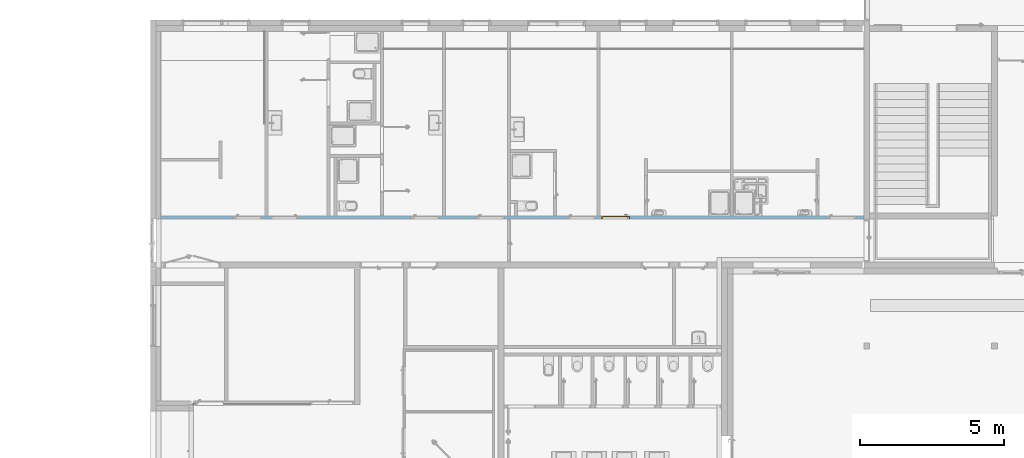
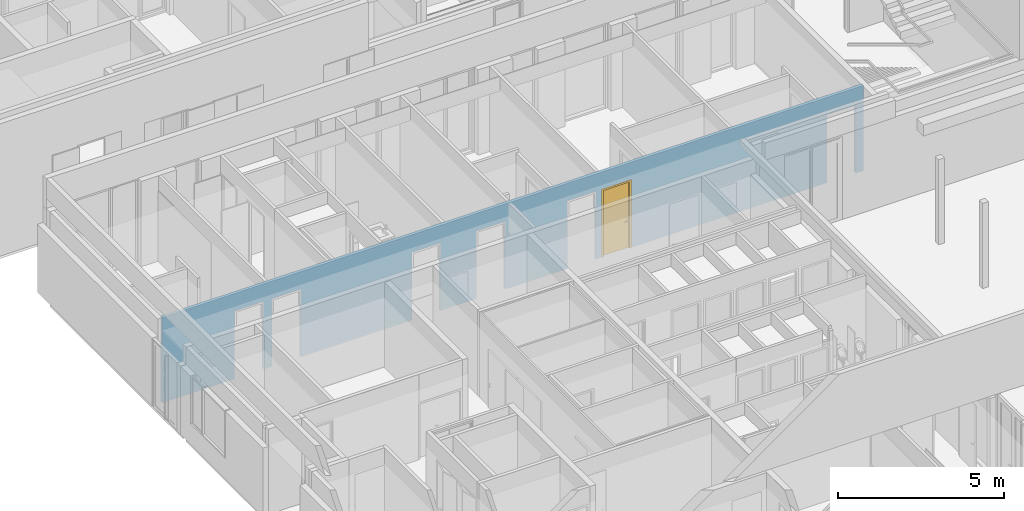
# One storey, part 105 of 240: 1 door, 7 openings, plus 1 element that does not belong to this part.
"""IFC2X3 building model written with IfcOpenShell, lengths in centimetres."""

from ifc_helpers import new_model, entity, si_unit, converted_unit, derived_unit, direction, frame, frame_2d, origin, place, context, subcontext, project, spatial, rectangle, extrude, faceted_brep, source, transform, mapped, material, material_list, layer, layer_set, layer_usage, type_object, type_shapes, element, fill, save


model = new_model("IFC2X3")

# Units and contexts
model_context = context("Model", 3, precision=0.001, world=origin(), true_north=direction((6.12303176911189e-17, 1.0)))
body_context = subcontext(model_context, "Body", "Model", "MODEL_VIEW")
ifc_project = project(units=[si_unit("LENGTHUNIT", "METRE", prefix="CENTI"), si_unit("AREAUNIT", "SQUARE_METRE"), si_unit("VOLUMEUNIT", "CUBIC_METRE"), converted_unit("PLANEANGLEUNIT", "DEGREE", entity("IfcRatioMeasure", 0.0174532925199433), si_unit("PLANEANGLEUNIT", "RADIAN"), dimensions=[0, 0, 0, 0, 0, 0, 0]), si_unit("MASSUNIT", "GRAM", prefix="KILO"), derived_unit("MASSDENSITYUNIT", [(si_unit("MASSUNIT", "GRAM", prefix="KILO"), 1), (si_unit("LENGTHUNIT", "METRE"), -3)]), si_unit("TIMEUNIT", "SECOND"), si_unit("FREQUENCYUNIT", "HERTZ"), si_unit("THERMODYNAMICTEMPERATUREUNIT", "DEGREE_CELSIUS"), derived_unit("THERMALTRANSMITTANCEUNIT", [(si_unit("MASSUNIT", "GRAM", prefix="KILO"), 1), (si_unit("THERMODYNAMICTEMPERATUREUNIT", "KELVIN"), -1), (si_unit("TIMEUNIT", "SECOND"), -3)]), derived_unit("VOLUMETRICFLOWRATEUNIT", [(si_unit("LENGTHUNIT", "METRE"), 3), (si_unit("TIMEUNIT", "SECOND"), -1)]), si_unit("ELECTRICCURRENTUNIT", "AMPERE"), si_unit("ELECTRICVOLTAGEUNIT", "VOLT"), si_unit("POWERUNIT", "WATT"), si_unit("FORCEUNIT", "NEWTON", prefix="KILO"), si_unit("ILLUMINANCEUNIT", "LUX"), si_unit("LUMINOUSFLUXUNIT", "LUMEN"), si_unit("LUMINOUSINTENSITYUNIT", "CANDELA"), derived_unit("USERDEFINED", [(si_unit("MASSUNIT", "GRAM", prefix="KILO"), -1), (si_unit("LENGTHUNIT", "METRE"), -2), (si_unit("TIMEUNIT", "SECOND"), 3), (si_unit("LUMINOUSFLUXUNIT", "LUMEN"), 1)]), derived_unit("LINEARVELOCITYUNIT", [(si_unit("LENGTHUNIT", "METRE"), 1), (si_unit("TIMEUNIT", "SECOND"), -1)]), si_unit("PRESSUREUNIT", "PASCAL"), derived_unit("USERDEFINED", [(si_unit("LENGTHUNIT", "METRE"), -2), (si_unit("MASSUNIT", "GRAM", prefix="KILO"), 1), (si_unit("TIMEUNIT", "SECOND"), -2)])], contexts=[model_context])

# Site, building, storey
site_placement = place(None, frame((-2781.94577612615, 7442.24238424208, 0.0)))
site = spatial("IfcSite", under=ifc_project, at=site_placement, Name="Default", CompositionType="ELEMENT")
building_placement = place(site_placement, origin())
building = spatial("IfcBuilding", under=site, at=building_placement, CompositionType="ELEMENT")
storey_placement = place(building_placement, origin())
storey = spatial("IfcBuildingStorey", under=building, at=storey_placement, Name="N00 - COO", CompositionType="ELEMENT", Elevation=0.0)

# Wall, openings, door
ifc_material_1 = material(Name="01 - Enduit/Plâtre")
ifc_layer_1 = layer(ifc_material_1, 1.3)
ifc_material_2 = material(Name="00 - Isolant")
ifc_layer_2 = layer(ifc_material_2, 7.4)
ifc_layer_3 = layer(ifc_material_1, 1.3)
ifc_layer_set = layer_set([ifc_layer_1, ifc_layer_2, ifc_layer_3], Name="Mur de base:06 - cloisons - Ba13 10cm")
ifc_layer_usage = layer_usage(ifc_layer_set, "AXIS2", "NEGATIVE", 5.0)
wall_type = type_object("IfcWallType", Name="Mur de base:06 - cloisons - Ba13 10cm", PredefinedType="STANDARD", material=ifc_layer_set)
wall_placement = place(building_placement, frame((-10866.3130476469, -1755.0, 0.0)))
wall = element("IfcWallStandardCase", 1, at=wall_placement, inside=storey, type_object=wall_type, material=ifc_layer_usage, Name="Mur de base:06 - cloisons - Ba13 10cm", ObjectType="Mur de base:06 - cloisons - Ba13 10cm", context=body_context, shape_type="SweptSolid", body=[
    extrude(rectangle(XDim=2435.48317594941, YDim=9.99999999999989, at=frame_2d((1217.7415879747, 3.37507799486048e-14), x_axis=(-1.0, 0.0))), origin(), (0.0, 0.0, 1.0), 313.0),
])
opening_1_placement = place(wall_placement, frame((2309.31316997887, -5.0, 0.0)))
element("IfcOpeningElement", 2, at=opening_1_placement, cuts=wall, Name="Int. Simple:PP simple (0.93m x 2.50m):1", ObjectType="Opening", context=body_context, shape_type="SweptSolid", body=[
    extrude(rectangle(XDim=248.500000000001, YDim=99.9999999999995, at=frame_2d((124.250000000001, 49.9999999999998), x_axis=(1.0, 0.0))), frame((0.0, 0.0, 0.0), z_axis=(0.0, 1.0, 0.0), x_axis=(0.0, 0.0, 1.0)), (0.0, 0.0, 1.0), 10.0),
])
opening_2_placement = place(wall_placement, frame((1527.31316997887, -5.0, 0.0)))
opening_2 = element("IfcOpeningElement", 3, at=opening_2_placement, cuts=wall, Name="Int. Simple:PP simple (0.93m x 2.50m):1", ObjectType="Opening", context=body_context, shape_type="SweptSolid", body=[
    extrude(rectangle(XDim=248.500000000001, YDim=99.9999999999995, at=frame_2d((124.250000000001, 50.0), x_axis=(1.0, 0.0))), frame((0.0, 0.0, 0.0), z_axis=(0.0, 1.0, 0.0), x_axis=(0.0, 0.0, 1.0)), (0.0, 0.0, 1.0), 10.0),
])
opening_3_placement = place(wall_placement, frame((1406.81316997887, -5.0, 0.0)))
element("IfcOpeningElement", 4, at=opening_3_placement, cuts=wall, Name="Int. Simple:PP simple (0.93m x 2.50m):1", ObjectType="Opening", context=body_context, shape_type="SweptSolid", body=[
    extrude(rectangle(XDim=248.500000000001, YDim=99.9999999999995, at=frame_2d((124.250000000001, 49.9999999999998), x_axis=(1.0, 0.0))), frame((0.0, 0.0, 0.0), z_axis=(0.0, 1.0, 0.0), x_axis=(0.0, 0.0, 1.0)), (0.0, 0.0, 1.0), 10.0),
])
opening_4_placement = place(wall_placement, frame((1091.81316997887, -5.0, 0.0)))
element("IfcOpeningElement", 5, at=opening_4_placement, cuts=wall, Name="Int. Simple:PP simple (0.93m x 2.50m):1", ObjectType="Opening", context=body_context, shape_type="SweptSolid", body=[
    extrude(rectangle(XDim=248.500000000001, YDim=99.9999999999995, at=frame_2d((124.250000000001, 49.9999999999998), x_axis=(1.0, 0.0))), frame((0.0, 0.0, 0.0), z_axis=(0.0, 1.0, 0.0), x_axis=(0.0, 0.0, 1.0)), (0.0, 0.0, 1.0), 10.0),
])
opening_5_placement = place(wall_placement, frame((866.813169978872, -5.0, 0.0)))
element("IfcOpeningElement", 6, at=opening_5_placement, cuts=wall, Name="Int. Simple:PP simple (0.93m x 2.50m):1", ObjectType="Opening", context=body_context, shape_type="SweptSolid", body=[
    extrude(rectangle(XDim=248.500000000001, YDim=99.9999999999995, at=frame_2d((124.250000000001, 49.9999999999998), x_axis=(1.0, 0.0))), frame((0.0, 0.0, 0.0), z_axis=(0.0, 1.0, 0.0), x_axis=(0.0, 0.0, 1.0)), (0.0, 0.0, 1.0), 10.0),
])
opening_6_placement = place(wall_placement, frame((381.813169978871, -5.0, 0.0)))
element("IfcOpeningElement", 7, at=opening_6_placement, cuts=wall, Name="Int. Simple:PP simple (0.93m x 2.50m):1", ObjectType="Opening", context=body_context, shape_type="SweptSolid", body=[
    extrude(rectangle(XDim=248.500000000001, YDim=99.9999999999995, at=frame_2d((124.250000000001, 50.0), x_axis=(1.0, 0.0))), frame((0.0, 0.0, 0.0), z_axis=(0.0, 1.0, 0.0), x_axis=(0.0, 0.0, 1.0)), (0.0, 0.0, 1.0), 10.0),
])
opening_7_placement = place(wall_placement, frame((251.813169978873, -5.0, 0.0)))
element("IfcOpeningElement", 8, at=opening_7_placement, cuts=wall, Name="Int. Simple:PP simple (0.93m x 2.50m):1", ObjectType="Opening", context=body_context, shape_type="SweptSolid", body=[
    extrude(rectangle(XDim=248.500000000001, YDim=99.9999999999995, at=frame_2d((124.250000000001, 49.9999999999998), x_axis=(1.0, 0.0))), frame((0.0, 0.0, 0.0), z_axis=(0.0, 1.0, 0.0), x_axis=(0.0, 0.0, 1.0)), (0.0, 0.0, 1.0), 10.0),
])
ifc_material_3 = material(Name="Finition Peinture - Blanc satiné")
ifc_material_4 = material(Name="Bois - Panneau de porte")
ifc_material_5 = material(Name="Bois - Cadre de porte")
ifc_material_list_1 = material_list([ifc_material_3, ifc_material_4, ifc_material_5])
ifc_material_list_2 = material_list([ifc_material_3, ifc_material_4, ifc_material_5])
door_style = type_object("IfcDoorStyle", Name="PP simple (0.93m x 2.50m)", ConstructionType="NOTDEFINED", OperationType="SINGLE_SWING_LEFT", ParameterTakesPrecedence=False, Sizeable=False, material=ifc_material_list_2)
shared_shape = source(origin(), body_context, "Body", "Brep", [
    faceted_brep([(10.5352761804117, -0.500000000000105, 86.6003983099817), (11.5000000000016, -0.500000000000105, 87.0), (11.5000000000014, -0.500000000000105, 108.0), (10.5352761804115, -0.500000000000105, 108.399601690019), (9.50000000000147, -0.500000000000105, 108.535898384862), (8.46472381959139, -0.500000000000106, 108.399601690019), (7.50000000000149, -0.500000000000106, 108.0), (7.50000000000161, -0.500000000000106, 87.0), (8.46472381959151, -0.500000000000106, 86.6003983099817), (9.50000000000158, -0.500000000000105, 86.464101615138), (10.5352761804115, 0.0, 108.399601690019), (11.5000000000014, 0.0, 108.0), (11.5000000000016, 0.0, 87.0), (10.5352761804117, 0.0, 86.6003983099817), (9.50000000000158, 0.0, 86.464101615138), (8.46472381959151, 0.0, 86.6003983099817), (7.50000000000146, 0.0, 87.0), (7.50000000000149, 0.0, 108.0), (8.46472381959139, 0.0, 108.399601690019), (9.50000000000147, 0.0, 108.535898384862)], [[[0, 1, 2, 3, 4, 5, 6, 7, 8, 9]], [[10, 11, 12, 13, 14, 15, 16, 17, 18, 19]], [[16, 15, 8, 7]], [[8, 15, 14, 9]], [[14, 13, 0, 9]], [[13, 12, 1, 0]], [[2, 1, 12, 11]], [[11, 10, 3, 2]], [[3, 10, 19, 4]], [[19, 18, 5, 4]], [[18, 17, 6, 5]], [[7, 6, 17, 16]]]),
    faceted_brep([(10.5352761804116, 4.0, 86.6003983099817), (11.5000000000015, 4.0, 87.0), (11.5000000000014, 4.0, 108.0), (10.5352761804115, 4.0, 108.399601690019), (9.50000000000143, 4.0, 108.535898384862), (8.46472381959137, 4.0, 108.399601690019), (7.50000000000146, 4.0, 108.0), (7.50000000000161, 4.0, 87.0), (8.46472381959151, 4.0, 86.6003983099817), (9.50000000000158, 4.0, 86.464101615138), (10.5352761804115, 4.49999999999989, 108.399601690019), (11.5000000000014, 4.49999999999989, 108.0), (11.5000000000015, 4.49999999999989, 87.0), (10.5352761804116, 4.49999999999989, 86.6003983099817), (9.50000000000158, 4.49999999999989, 86.464101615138), (8.46472381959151, 4.49999999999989, 86.6003983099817), (7.50000000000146, 4.49999999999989, 87.0), (7.50000000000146, 4.49999999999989, 108.0), (8.46472381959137, 4.49999999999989, 108.399601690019), (9.50000000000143, 4.49999999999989, 108.535898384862)], [[[0, 1, 2, 3, 4, 5, 6, 7, 8, 9]], [[10, 11, 12, 13, 14, 15, 16, 17, 18, 19]], [[11, 10, 3, 2]], [[3, 10, 19, 4]], [[19, 18, 5, 4]], [[18, 17, 6, 5]], [[7, 6, 17, 16]], [[16, 15, 8, 7]], [[8, 15, 14, 9]], [[14, 13, 0, 9]], [[13, 12, 1, 0]], [[2, 1, 12, 11]]]),
    faceted_brep([(9.29747013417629, -0.500000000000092, 100.778044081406), (9.70252986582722, -0.50000000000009, 100.778044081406), (10.1000000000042, -0.500000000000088, 100.699999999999), (10.1000000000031, -0.500000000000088, 99.3000000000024), (9.7025298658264, -0.50000000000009, 99.2219559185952), (9.29747013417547, -0.500000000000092, 99.221955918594), (8.8999999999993, -0.500000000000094, 99.2999999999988), (8.89999999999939, -0.500000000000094, 100.7), (8.89999999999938, -3.26509507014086, 100.7), (9.29747013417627, -3.10045754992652, 100.778044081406), (10.9023585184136, -4.70534593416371, 100.778044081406), (11.0701397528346, -4.30028620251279, 100.778044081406), (9.7025298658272, -2.93267631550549, 100.778044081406), (10.1000000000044, -2.76803879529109, 100.7), (10.1000000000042, -2.76803879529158, 99.3000000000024), (9.7025298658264, -2.93267631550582, 99.2219559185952), (11.0701397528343, -4.30028620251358, 99.2219559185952), (10.9023585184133, -4.70534593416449, 99.221955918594), (9.29747013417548, -3.10045754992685, 99.221955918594), (8.89999999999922, -3.26509507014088, 99.2999999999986), (10.7377209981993, -5.10281606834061, 100.7), (11.2347772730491, -3.90281606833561, 100.7), (11.2347772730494, -3.90281606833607, 99.3000000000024), (10.7377209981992, -5.10281606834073, 99.2999999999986), (19.5018640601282, -5.10281606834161, 99.2999999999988), (19.5018640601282, -4.70534593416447, 99.221955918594), (19.5018640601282, -4.30028620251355, 99.2219559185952), (19.5018640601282, -3.9028160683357, 99.3000000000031), (19.5018640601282, -3.90281606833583, 100.7), (19.5018640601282, -4.30028620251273, 100.778044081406), (19.5018640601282, -4.70534593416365, 100.778044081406), (19.5018640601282, -5.10281606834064, 100.699999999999), (14.7307697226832, -5.10281606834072, 100.7), (15.2860019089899, -4.5028160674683, 100.78786867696), (15.3683206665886, -3.9028160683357, 100.7), (15.3683206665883, -3.9028160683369, 99.3000000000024), (15.2860018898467, -4.50281607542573, 99.2121313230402), (14.7307700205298, -5.10281606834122, 99.2999999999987)], [[[0, 1, 2, 3, 4, 5, 6, 7]], [[8, 9, 0, 7]], [[9, 10, 11, 12, 1, 0]], [[12, 13, 2, 1]], [[3, 2, 13, 14]], [[14, 15, 4, 3]], [[15, 16, 17, 18, 5, 4]], [[18, 19, 6, 5]], [[7, 6, 19, 8]], [[20, 10, 9, 8]], [[11, 21, 13, 12]], [[14, 13, 21, 22]], [[22, 16, 15, 14]], [[17, 23, 19, 18]], [[8, 19, 23, 20]], [[24, 25, 26, 27, 28, 29, 30, 31]], [[32, 30, 33]], [[31, 30, 32]], [[10, 20, 32]], [[33, 34, 11]], [[21, 11, 34]], [[34, 29, 28]], [[30, 29, 33]], [[29, 34, 33]], [[10, 32, 33]], [[10, 33, 11]], [[22, 21, 34, 28, 27, 35]], [[35, 26, 36]], [[37, 36, 25]], [[22, 35, 16]], [[35, 27, 26]], [[24, 37, 25]], [[23, 17, 37]], [[37, 17, 36]], [[17, 16, 36]], [[16, 35, 36]], [[25, 36, 26]], [[20, 23, 37, 24, 31, 32]]]),
    faceted_brep([(9.29747013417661, 4.49999999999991, 100.778044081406), (8.89999999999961, 4.4999999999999, 100.7), (8.89999999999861, 4.4999999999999, 99.2999999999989), (9.29747013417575, 4.49999999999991, 99.221955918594), (9.70252986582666, 4.49999999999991, 99.2219559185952), (10.1000000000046, 4.49999999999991, 99.3000000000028), (10.1000000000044, 4.49999999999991, 100.7), (9.70252986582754, 4.49999999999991, 100.778044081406), (10.1000000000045, 6.7485204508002, 99.3000000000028), (10.1000000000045, 6.74852045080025, 100.7), (9.70252986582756, 6.91315797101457, 100.778044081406), (11.083890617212, 8.29451872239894, 100.778044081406), (10.916109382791, 8.69957845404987, 100.778044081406), (9.29747013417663, 7.0809392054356, 100.778044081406), (8.89999999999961, 7.24557672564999, 100.7), (8.89999999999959, 7.2455767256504, 99.2999999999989), (9.29747013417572, 7.08093920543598, 99.221955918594), (10.9161093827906, 8.69957845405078, 99.221955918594), (11.0838906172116, 8.29451872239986, 99.2219559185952), (9.70252986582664, 6.91315797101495, 99.2219559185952), (11.2485281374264, 7.89704858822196, 99.3000000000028), (11.2485281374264, 7.89704858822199, 100.7), (10.7514718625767, 9.09704858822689, 100.7), (10.7514718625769, 9.0970485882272, 99.2999999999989), (19.5045783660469, 7.89704858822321, 99.3000000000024), (19.5045783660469, 8.29451872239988, 99.2219559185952), (19.5045783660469, 8.6995784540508, 99.221955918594), (19.5045783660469, 9.09704858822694, 99.2999999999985), (19.5045783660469, 9.09704858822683, 100.7), (19.5045783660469, 8.69957845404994, 100.778044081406), (19.5045783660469, 8.29451872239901, 100.778044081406), (19.5045783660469, 7.89704858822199, 100.7), (15.3765520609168, 7.89704858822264, 99.3000000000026), (15.3765532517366, 7.89704858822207, 100.7), (15.294234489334, 8.49704858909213, 100.78786867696), (14.7445205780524, 9.09704858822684, 100.7), (14.7445204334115, 9.09704858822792, 99.2999999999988), (15.2942345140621, 8.49704858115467, 99.2121313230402)], [[[0, 1, 2, 3, 4, 5, 6, 7]], [[6, 5, 8, 9]], [[9, 10, 7, 6]], [[10, 11, 12, 13, 0, 7]], [[13, 14, 1, 0]], [[2, 1, 14, 15]], [[15, 16, 3, 2]], [[16, 17, 18, 19, 4, 3]], [[19, 8, 5, 4]], [[9, 8, 20, 21]], [[21, 11, 10, 9]], [[12, 22, 14, 13]], [[15, 14, 22, 23]], [[23, 17, 16, 15]], [[18, 20, 8, 19]], [[24, 25, 26, 27, 28, 29, 30, 31]], [[21, 20, 32, 24, 31, 33]], [[33, 30, 34]], [[35, 34, 29]], [[21, 33, 11]], [[33, 31, 30]], [[28, 35, 29]], [[22, 12, 35]], [[35, 12, 34]], [[12, 11, 34]], [[11, 33, 34]], [[29, 34, 30]], [[22, 35, 28, 27, 36, 23]], [[36, 26, 37]], [[27, 26, 36]], [[17, 23, 36]], [[37, 32, 18]], [[20, 18, 32]], [[32, 25, 24]], [[26, 25, 37]], [[25, 32, 37]], [[17, 36, 37]], [[17, 37, 18]]]),
    faceted_brep([(3.50000000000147, 4.0, 245.0), (96.5000000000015, 4.0, 245.0), (96.5000000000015, 4.0, 0.0), (3.50000000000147, 4.0, 0.0), (3.50000000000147, 0.0, 245.0), (3.50000000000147, 0.0, 0.0), (96.5000000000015, 0.0, 0.0), (96.5000000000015, 0.0, 245.0)], [[[0, 1, 2, 3]], [[4, 5, 6, 7]], [[1, 0, 4, 7]], [[2, 1, 7, 6]], [[3, 2, 6, 5]], [[0, 3, 5, 4]]]),
    faceted_brep([(0.0, 10.0, 0.0), (-1.50000000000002, 10.0, 0.0), (-1.50000000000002, 10.5000000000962, 0.0), (5.0, 10.5000000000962, 0.0), (5.0, 4.0, 0.0), (3.50000000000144, 4.0, 0.0), (3.50000000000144, -0.500000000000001, 0.0), (-1.50000000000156, -0.500000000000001, 0.0), (-1.50000000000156, 0.0, 0.0), (0.0, 0.0, 0.0), (0.0, 0.0, 248.500000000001), (0.0, 10.0, 248.500000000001), (100.0, 10.0, 248.500000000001), (100.0, 10.0, 0.0), (101.5, 10.0, 0.0), (101.5, 10.0, 250.0), (-1.50000000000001, 10.0, 250.0), (5.0, 10.5000000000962, 243.5), (5.0, 4.0, 243.5), (95.0, 4.0, 243.5), (95.0, 4.0, 0.0), (96.499999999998, 4.0, 0.0), (96.499999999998, 4.0, 245.0), (3.50000000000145, 4.0, 245.0), (100.0, 0.0, 248.500000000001), (100.0, 0.0, 0.0), (101.500000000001, 0.0, 0.0), (101.500000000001, -0.500000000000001, 0.0), (96.499999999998, -0.500000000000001, 0.0), (95.0, 10.5000000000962, 0.0), (101.5, 10.5000000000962, 0.0), (95.0, 10.5000000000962, 243.5), (3.50000000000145, -0.500000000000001, 245.0), (96.499999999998, -0.500000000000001, 245.0), (101.500000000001, -0.500000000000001, 250.0), (-1.50000000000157, -0.500000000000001, 250.0), (-1.50000000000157, 0.0, 250.0), (101.500000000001, 0.0, 250.0), (-1.50000000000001, 10.5000000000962, 250.0), (101.5, 10.5000000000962, 250.0)], [[[0, 1, 2, 3, 4, 5, 6, 7, 8, 9]], [[0, 9, 10, 11]], [[1, 0, 11, 12, 13, 14, 15, 16]], [[3, 17, 18, 4]], [[5, 4, 18, 19, 20, 21, 22, 23]], [[12, 24, 25, 13]], [[13, 25, 26, 27, 28, 21, 20, 29, 30, 14]], [[19, 31, 29, 20]], [[11, 10, 24, 12]], [[18, 17, 31, 19]], [[5, 23, 32, 6]], [[7, 6, 32, 33, 28, 27, 34, 35]], [[8, 7, 35, 36]], [[9, 8, 36, 37, 26, 25, 24, 10]], [[2, 1, 16, 38]], [[3, 2, 38, 39, 30, 29, 31, 17]], [[33, 22, 21, 28]], [[37, 34, 27, 26]], [[39, 15, 14, 30]], [[32, 23, 22, 33]], [[36, 35, 34, 37]], [[38, 16, 15, 39]]]),
])
type_shapes(door_style, [shared_shape])
door_placement = place(opening_2_placement, frame((100.0, 10.0, 0.0), z_axis=(0.0, 0.0, 1.0), x_axis=(-1.0, 0.0, 0.0)))
door = element("IfcDoor", 9, at=door_placement, inside=storey, type_object=door_style, material=ifc_material_list_1, Name="Int. Simple:PP simple (0.93m x 2.50m)", ObjectType="Int. Simple:PP simple (0.93m x 2.50m)", OverallHeight=248.500000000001, OverallWidth=99.9999999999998, context=body_context, shape_type="MappedRepresentation", body=[
    mapped(shared_shape, transform((0.0, 0.0, 0.0), scale=1.0)),
])
fill(opening_2, door)

save(model, "model.ifc")
